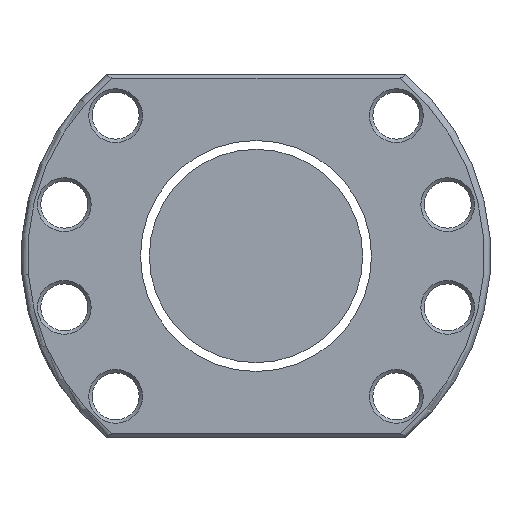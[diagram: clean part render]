
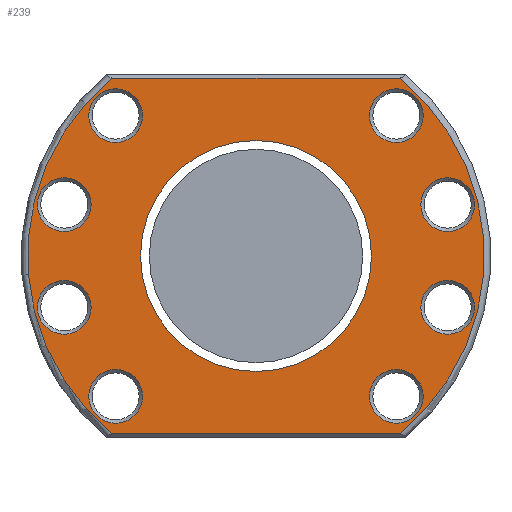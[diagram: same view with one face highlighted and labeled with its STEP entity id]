
A CAD part, left-side view. The second image highlights one B-rep face of the part: STEP entity #239.
In plain terms, the highlighted planar face has unit normal (-1, 0, 0).
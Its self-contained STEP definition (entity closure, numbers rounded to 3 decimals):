
#39 = DIRECTION ( 'NONE',  ( 1., 0., 0. ) ) ;
#48 = EDGE_CURVE ( 'NONE', #665, #665, #2020, .T. ) ;
#59 = ORIENTED_EDGE ( 'NONE', *, *, #2309, .T. ) ;
#72 = CARTESIAN_POINT ( 'NONE',  ( -148., 34.911, 41.7 ) ) ;
#146 = CARTESIAN_POINT ( 'NONE',  ( -148., -39.18, 32.88 ) ) ;
#172 = ORIENTED_EDGE ( 'NONE', *, *, #1808, .T. ) ;
#186 = ORIENTED_EDGE ( 'NONE', *, *, #2426, .T. ) ;
#204 = EDGE_LOOP ( 'NONE', ( #59, #2330, #872, #535 ) ) ;
#220 = VERTEX_POINT ( 'NONE', #1274 ) ;
#221 = CARTESIAN_POINT ( 'NONE',  ( -148., 33.517, -41.7 ) ) ;
#239 = ADVANCED_FACE ( 'NONE', ( #1248, #1281, #1759, #2317, #2284, #1995, #950, #3312, #968, #2816 ), #750, .T. ) ;
#260 = EDGE_LOOP ( 'NONE', ( #172 ) ) ;
#367 = ORIENTED_EDGE ( 'NONE', *, *, #792, .T. ) ;
#407 = AXIS2_PLACEMENT_3D ( 'NONE', #3124, #2612, #1555 ) ;
#439 = DIRECTION ( 'NONE',  ( 0., -1., 0. ) ) ;
#503 = EDGE_CURVE ( 'NONE', #1930, #1930, #1917, .T. ) ;
#511 = CARTESIAN_POINT ( 'NONE',  ( -148., -33.517, 41.7 ) ) ;
#522 = LINE ( 'NONE', #2308, #999 ) ;
#535 = ORIENTED_EDGE ( 'NONE', *, *, #2718, .T. ) ;
#543 = DIRECTION ( 'NONE',  ( 0., -1., 0. ) ) ;
#547 = EDGE_LOOP ( 'NONE', ( #1496 ) ) ;
#580 = DIRECTION ( 'NONE',  ( 0., 1., 0. ) ) ;
#612 = AXIS2_PLACEMENT_3D ( 'NONE', #2479, #1914, #2990 ) ;
#621 = CIRCLE ( 'NONE', #1490, 6.3 ) ;
#665 = VERTEX_POINT ( 'NONE', #2986 ) ;
#667 = AXIS2_PLACEMENT_3D ( 'NONE', #1267, #3299, #3042 ) ;
#750 = PLANE ( 'NONE',  #1644 ) ;
#771 = AXIS2_PLACEMENT_3D ( 'NONE', #1191, #785, #2305 ) ;
#785 = DIRECTION ( 'NONE',  ( 1., 0., 0. ) ) ;
#791 = DIRECTION ( 'NONE',  ( 0., -1., 0. ) ) ;
#792 = EDGE_CURVE ( 'NONE', #1180, #1180, #3279, .T. ) ;
#816 = LINE ( 'NONE', #72, #2079 ) ;
#827 = AXIS2_PLACEMENT_3D ( 'NONE', #2659, #855, #1637 ) ;
#835 = DIRECTION ( 'NONE',  ( 1., 0., 0. ) ) ;
#855 = DIRECTION ( 'NONE',  ( 1., 0., 0. ) ) ;
#872 = ORIENTED_EDGE ( 'NONE', *, *, #3215, .T. ) ;
#898 = AXIS2_PLACEMENT_3D ( 'NONE', #2913, #835, #2622 ) ;
#934 = ORIENTED_EDGE ( 'NONE', *, *, #2564, .T. ) ;
#948 = CIRCLE ( 'NONE', #1803, 53.5 ) ;
#950 = FACE_BOUND ( 'NONE', #2160, .T. ) ;
#968 = FACE_OUTER_BOUND ( 'NONE', #204, .T. ) ;
#973 = ORIENTED_EDGE ( 'NONE', *, *, #3101, .T. ) ;
#986 = VERTEX_POINT ( 'NONE', #3116 ) ;
#999 = VECTOR ( 'NONE', #791, 1000. ) ;
#1025 = VERTEX_POINT ( 'NONE', #511 ) ;
#1116 = EDGE_CURVE ( 'NONE', #3242, #3242, #2135, .T. ) ;
#1180 = VERTEX_POINT ( 'NONE', #1673 ) ;
#1191 = CARTESIAN_POINT ( 'NONE',  ( -148., 32.88, 32.88 ) ) ;
#1204 = DIRECTION ( 'NONE',  ( -1., 0., 0. ) ) ;
#1208 = CARTESIAN_POINT ( 'NONE',  ( -148., -32.88, -32.88 ) ) ;
#1248 = FACE_BOUND ( 'NONE', #547, .T. ) ;
#1249 = DIRECTION ( 'NONE',  ( 0., -1., 0. ) ) ;
#1253 = EDGE_CURVE ( 'NONE', #2764, #2764, #2569, .T. ) ;
#1267 = CARTESIAN_POINT ( 'NONE',  ( -148., 0., 0. ) ) ;
#1274 = CARTESIAN_POINT ( 'NONE',  ( -148., -51.216, -12.035 ) ) ;
#1281 = FACE_BOUND ( 'NONE', #2244, .T. ) ;
#1309 = CARTESIAN_POINT ( 'NONE',  ( -148., 44.916, -12.035 ) ) ;
#1477 = DIRECTION ( 'NONE',  ( 0., -1., 0. ) ) ;
#1490 = AXIS2_PLACEMENT_3D ( 'NONE', #2755, #2811, #2240 ) ;
#1496 = ORIENTED_EDGE ( 'NONE', *, *, #1116, .T. ) ;
#1537 = AXIS2_PLACEMENT_3D ( 'NONE', #1208, #2288, #3045 ) ;
#1543 = CARTESIAN_POINT ( 'NONE',  ( -148., 26.58, 32.88 ) ) ;
#1555 = DIRECTION ( 'NONE',  ( 0., -1., 0. ) ) ;
#1622 = ORIENTED_EDGE ( 'NONE', *, *, #503, .T. ) ;
#1637 = DIRECTION ( 'NONE',  ( 0., -1., 0. ) ) ;
#1644 = AXIS2_PLACEMENT_3D ( 'NONE', #3085, #2770, #1477 ) ;
#1656 = EDGE_LOOP ( 'NONE', ( #2368 ) ) ;
#1673 = CARTESIAN_POINT ( 'NONE',  ( -148., 26.58, -32.88 ) ) ;
#1707 = CIRCLE ( 'NONE', #898, 6.3 ) ;
#1751 = AXIS2_PLACEMENT_3D ( 'NONE', #2273, #2545, #1249 ) ;
#1759 = FACE_BOUND ( 'NONE', #2196, .T. ) ;
#1790 = ORIENTED_EDGE ( 'NONE', *, *, #48, .T. ) ;
#1803 = AXIS2_PLACEMENT_3D ( 'NONE', #2771, #1204, #439 ) ;
#1808 = EDGE_CURVE ( 'NONE', #3364, #3364, #621, .T. ) ;
#1863 = CIRCLE ( 'NONE', #771, 6.3 ) ;
#1914 = DIRECTION ( 'NONE',  ( 1., 0., 0. ) ) ;
#1917 = CIRCLE ( 'NONE', #667, 27.05 ) ;
#1930 = VERTEX_POINT ( 'NONE', #2700 ) ;
#1973 = CARTESIAN_POINT ( 'NONE',  ( -148., 38.616, -12.035 ) ) ;
#1995 = FACE_BOUND ( 'NONE', #1656, .T. ) ;
#2018 = CARTESIAN_POINT ( 'NONE',  ( -148., -33.517, -41.7 ) ) ;
#2020 = CIRCLE ( 'NONE', #612, 6.3 ) ;
#2035 = VERTEX_POINT ( 'NONE', #3078 ) ;
#2079 = VECTOR ( 'NONE', #580, 1000. ) ;
#2135 = CIRCLE ( 'NONE', #2836, 6.3 ) ;
#2142 = EDGE_LOOP ( 'NONE', ( #1790 ) ) ;
#2160 = EDGE_LOOP ( 'NONE', ( #934 ) ) ;
#2196 = EDGE_LOOP ( 'NONE', ( #186 ) ) ;
#2216 = VERTEX_POINT ( 'NONE', #2018 ) ;
#2240 = DIRECTION ( 'NONE',  ( 0., -1., 0. ) ) ;
#2244 = EDGE_LOOP ( 'NONE', ( #367 ) ) ;
#2273 = CARTESIAN_POINT ( 'NONE',  ( -148., 32.88, -32.88 ) ) ;
#2284 = FACE_BOUND ( 'NONE', #260, .T. ) ;
#2288 = DIRECTION ( 'NONE',  ( 1., 0., 0. ) ) ;
#2304 = VERTEX_POINT ( 'NONE', #221 ) ;
#2305 = DIRECTION ( 'NONE',  ( 0., -1., 0. ) ) ;
#2308 = CARTESIAN_POINT ( 'NONE',  ( -148., -34.911, -41.7 ) ) ;
#2309 = EDGE_CURVE ( 'NONE', #2304, #2216, #522, .T. ) ;
#2317 = FACE_BOUND ( 'NONE', #2621, .T. ) ;
#2330 = ORIENTED_EDGE ( 'NONE', *, *, #2814, .T. ) ;
#2368 = ORIENTED_EDGE ( 'NONE', *, *, #1253, .T. ) ;
#2426 = EDGE_CURVE ( 'NONE', #2035, #2035, #3014, .T. ) ;
#2439 = EDGE_LOOP ( 'NONE', ( #1622 ) ) ;
#2479 = CARTESIAN_POINT ( 'NONE',  ( -148., 44.916, 12.035 ) ) ;
#2545 = DIRECTION ( 'NONE',  ( 1., 0., 0. ) ) ;
#2564 = EDGE_CURVE ( 'NONE', #2808, #2808, #1863, .T. ) ;
#2569 = CIRCLE ( 'NONE', #827, 6.3 ) ;
#2573 = CIRCLE ( 'NONE', #407, 53.5 ) ;
#2612 = DIRECTION ( 'NONE',  ( -1., 0., 0. ) ) ;
#2621 = EDGE_LOOP ( 'NONE', ( #973 ) ) ;
#2622 = DIRECTION ( 'NONE',  ( 0., -1., 0. ) ) ;
#2659 = CARTESIAN_POINT ( 'NONE',  ( -148., -32.88, 32.88 ) ) ;
#2700 = CARTESIAN_POINT ( 'NONE',  ( -148., 27.05, 0. ) ) ;
#2718 = EDGE_CURVE ( 'NONE', #986, #2304, #2573, .T. ) ;
#2755 = CARTESIAN_POINT ( 'NONE',  ( -148., -44.916, 12.035 ) ) ;
#2764 = VERTEX_POINT ( 'NONE', #146 ) ;
#2770 = DIRECTION ( 'NONE',  ( -1., 0., 0. ) ) ;
#2771 = CARTESIAN_POINT ( 'NONE',  ( -148., 0., 0. ) ) ;
#2808 = VERTEX_POINT ( 'NONE', #1543 ) ;
#2811 = DIRECTION ( 'NONE',  ( 1., 0., 0. ) ) ;
#2814 = EDGE_CURVE ( 'NONE', #2216, #1025, #948, .T. ) ;
#2816 = FACE_BOUND ( 'NONE', #2439, .T. ) ;
#2836 = AXIS2_PLACEMENT_3D ( 'NONE', #1309, #39, #543 ) ;
#2913 = CARTESIAN_POINT ( 'NONE',  ( -148., -44.916, -12.035 ) ) ;
#2986 = CARTESIAN_POINT ( 'NONE',  ( -148., 38.616, 12.035 ) ) ;
#2990 = DIRECTION ( 'NONE',  ( 0., -1., 0. ) ) ;
#3014 = CIRCLE ( 'NONE', #1537, 6.3 ) ;
#3042 = DIRECTION ( 'NONE',  ( 0., 1., 0. ) ) ;
#3045 = DIRECTION ( 'NONE',  ( 0., -1., 0. ) ) ;
#3078 = CARTESIAN_POINT ( 'NONE',  ( -148., -39.18, -32.88 ) ) ;
#3085 = CARTESIAN_POINT ( 'NONE',  ( -148., 55., 0. ) ) ;
#3101 = EDGE_CURVE ( 'NONE', #220, #220, #1707, .T. ) ;
#3116 = CARTESIAN_POINT ( 'NONE',  ( -148., 33.517, 41.7 ) ) ;
#3124 = CARTESIAN_POINT ( 'NONE',  ( -148., 0., 0. ) ) ;
#3215 = EDGE_CURVE ( 'NONE', #1025, #986, #816, .T. ) ;
#3242 = VERTEX_POINT ( 'NONE', #1973 ) ;
#3279 = CIRCLE ( 'NONE', #1751, 6.3 ) ;
#3299 = DIRECTION ( 'NONE',  ( 1., 0., 0. ) ) ;
#3312 = FACE_BOUND ( 'NONE', #2142, .T. ) ;
#3334 = CARTESIAN_POINT ( 'NONE',  ( -148., -51.216, 12.035 ) ) ;
#3364 = VERTEX_POINT ( 'NONE', #3334 ) ;
